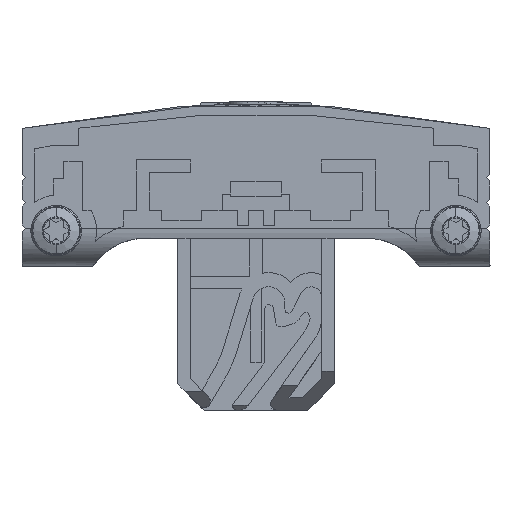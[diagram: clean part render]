
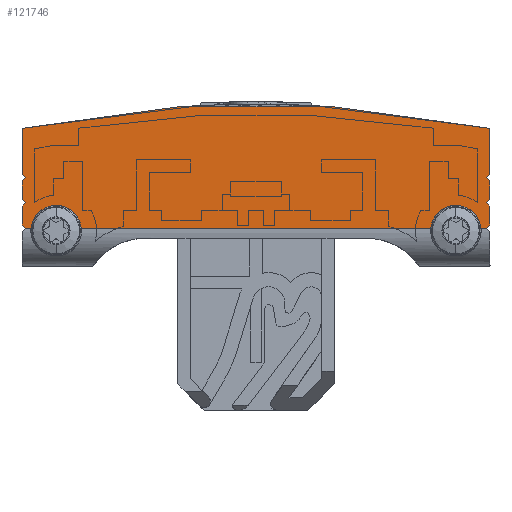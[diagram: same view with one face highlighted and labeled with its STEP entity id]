
A CAD part, front view. The second image highlights one B-rep face of the part: STEP entity #121746.
In plain terms, the highlighted planar face has unit normal (0, -1, 0) as drawn and (0, 1, 0) by its records, which use the part's own axes.
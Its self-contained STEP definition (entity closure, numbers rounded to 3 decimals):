
#96496=CARTESIAN_POINT(' ',(17.79,1.2,-1.));
#96497=VERTEX_POINT(' ',#96496);
#96511=CARTESIAN_POINT(' ',(17.79,1.2,-1.));
#96516=DIRECTION(' ',(1.,0.,0.));
#96521=VECTOR(' ',#96516,1.);
#96526=LINE('',#96511,#96521);
#96531=CARTESIAN_POINT(' ',(18.25,1.2,-1.));
#96532=VERTEX_POINT(' ',#96531);
#96536=EDGE_CURVE(' ',#96497,#96532,#96526,.T.);
#96911=CARTESIAN_POINT(' ',(-18.25,1.2,-1.));
#96912=VERTEX_POINT(' ',#96911);
#96926=CARTESIAN_POINT(' ',(-18.25,1.2,-1.));
#96931=DIRECTION(' ',(1.,0.,0.));
#96936=VECTOR(' ',#96931,1.);
#96941=LINE('',#96926,#96936);
#96946=CARTESIAN_POINT(' ',(-17.79,1.2,-1.));
#96947=VERTEX_POINT(' ',#96946);
#96951=EDGE_CURVE(' ',#96912,#96947,#96941,.T.);
#97056=CARTESIAN_POINT(' ',(-13.81,1.2,-1.));
#97057=VERTEX_POINT(' ',#97056);
#97071=CARTESIAN_POINT(' ',(-13.81,1.2,-1.));
#97076=DIRECTION(' ',(1.,0.,0.));
#97081=VECTOR(' ',#97076,1.);
#97086=LINE('',#97071,#97081);
#97091=CARTESIAN_POINT(' ',(13.81,1.2,-1.));
#97092=VERTEX_POINT(' ',#97091);
#97096=EDGE_CURVE(' ',#97057,#97092,#97086,.T.);
#120681=CARTESIAN_POINT(' ',(15.8,1.2,0.8));
#120682=VERTEX_POINT(' ',#120681);
#120696=CARTESIAN_POINT(' ',(15.8,1.2,-1.2));
#120701=DIRECTION(' ',(0.,1.,0.));
#120706=DIRECTION(' ',(0.,0.,1.));
#120711=AXIS2_PLACEMENT_3D(' ',#120696,#120701,#120706);
#120716=CIRCLE('',#120711,2.);
#120721=EDGE_CURVE(' ',#120682,#96497,#120716,.T.);
#120986=DIRECTION(' ',(0.,1.,0.));
#120991=CARTESIAN_POINT(' ',(-18.5,1.2,-1.));
#120996=DIRECTION(' ',(0.,0.,1.));
#121001=AXIS2_PLACEMENT_3D(' ',#120991,#120986,#120996);
#121006=PLANE('',#121001);
#121011=CARTESIAN_POINT(' ',(18.5,1.2,0.75));
#121016=DIRECTION(' ',(0.,0.,-1.));
#121021=VECTOR(' ',#121016,1.);
#121026=LINE('',#121011,#121021);
#121031=CARTESIAN_POINT(' ',(18.5,1.2,0.75));
#121032=VERTEX_POINT(' ',#121031);
#121036=CARTESIAN_POINT(' ',(18.5,1.2,-0.75));
#121037=VERTEX_POINT(' ',#121036);
#121041=EDGE_CURVE(' ',#121032,#121037,#121026,.T.);
#121046=ORIENTED_EDGE(' ',*,*,#121041,.T.);
#121051=CARTESIAN_POINT(' ',(18.5,1.2,-0.75));
#121056=DIRECTION(' ',(-0.707,0.,-0.707));
#121061=VECTOR(' ',#121056,1.);
#121066=LINE('',#121051,#121061);
#121071=EDGE_CURVE(' ',#121037,#96532,#121066,.T.);
#121076=ORIENTED_EDGE(' ',*,*,#121071,.T.);
#121081=ORIENTED_EDGE(' ',*,*,#96536,.F.);
#121086=ORIENTED_EDGE(' ',*,*,#120721,.F.);
#121091=CARTESIAN_POINT(' ',(15.799,1.2,-1.199));
#121096=DIRECTION(' ',(0.,1.,0.));
#121101=DIRECTION(' ',(-0.995,0.,0.099));
#121106=AXIS2_PLACEMENT_3D(' ',#121091,#121096,#121101);
#121111=CIRCLE('',#121106,1.999);
#121116=EDGE_CURVE(' ',#97092,#120682,#121111,.T.);
#121121=ORIENTED_EDGE(' ',*,*,#121116,.F.);
#121126=ORIENTED_EDGE(' ',*,*,#97096,.F.);
#121131=CARTESIAN_POINT(' ',(-15.8,1.2,-1.2));
#121136=DIRECTION(' ',(0.,1.,0.));
#121141=DIRECTION(' ',(0.,0.,1.));
#121146=AXIS2_PLACEMENT_3D(' ',#121131,#121136,#121141);
#121151=CIRCLE('',#121146,2.);
#121156=CARTESIAN_POINT(' ',(-15.8,1.2,0.8));
#121157=VERTEX_POINT(' ',#121156);
#121161=EDGE_CURVE(' ',#121157,#97057,#121151,.T.);
#121166=ORIENTED_EDGE(' ',*,*,#121161,.F.);
#121171=CARTESIAN_POINT(' ',(-15.801,1.2,-1.199));
#121176=DIRECTION(' ',(-0.,1.,0.));
#121181=DIRECTION(' ',(-0.995,0.,0.099));
#121186=AXIS2_PLACEMENT_3D(' ',#121171,#121176,#121181);
#121191=CIRCLE('',#121186,1.999);
#121196=EDGE_CURVE(' ',#96947,#121157,#121191,.T.);
#121201=ORIENTED_EDGE(' ',*,*,#121196,.F.);
#121206=ORIENTED_EDGE(' ',*,*,#96951,.F.);
#121211=CARTESIAN_POINT(' ',(-18.25,1.2,-1.));
#121216=DIRECTION(' ',(-0.707,0.,0.707));
#121221=VECTOR(' ',#121216,1.);
#121226=LINE('',#121211,#121221);
#121231=CARTESIAN_POINT(' ',(-18.5,1.2,-0.75));
#121232=VERTEX_POINT(' ',#121231);
#121236=EDGE_CURVE(' ',#96912,#121232,#121226,.T.);
#121241=ORIENTED_EDGE(' ',*,*,#121236,.T.);
#121246=CARTESIAN_POINT(' ',(-18.5,1.2,-0.75));
#121251=DIRECTION(' ',(0.,0.,1.));
#121256=VECTOR(' ',#121251,1.);
#121261=LINE('',#121246,#121256);
#121266=CARTESIAN_POINT(' ',(-18.5,1.2,0.75));
#121267=VERTEX_POINT(' ',#121266);
#121271=EDGE_CURVE(' ',#121232,#121267,#121261,.T.);
#121276=ORIENTED_EDGE(' ',*,*,#121271,.T.);
#121281=CARTESIAN_POINT(' ',(-18.5,1.2,0.75));
#121286=DIRECTION(' ',(0.707,0.,0.707));
#121291=VECTOR(' ',#121286,1.);
#121296=LINE('',#121281,#121291);
#121301=CARTESIAN_POINT(' ',(-18.25,1.2,1.));
#121302=VERTEX_POINT(' ',#121301);
#121306=EDGE_CURVE(' ',#121267,#121302,#121296,.T.);
#121311=ORIENTED_EDGE(' ',*,*,#121306,.T.);
#121316=CARTESIAN_POINT(' ',(-18.25,1.2,1.));
#121321=DIRECTION(' ',(-0.707,0.,0.707));
#121326=VECTOR(' ',#121321,1.);
#121331=LINE('',#121316,#121326);
#121336=CARTESIAN_POINT(' ',(-18.5,1.2,1.25));
#121337=VERTEX_POINT(' ',#121336);
#121341=EDGE_CURVE(' ',#121302,#121337,#121331,.T.);
#121346=ORIENTED_EDGE(' ',*,*,#121341,.T.);
#121351=CARTESIAN_POINT(' ',(-18.5,1.2,1.25));
#121356=DIRECTION(' ',(0.,0.,1.));
#121361=VECTOR(' ',#121356,1.);
#121366=LINE('',#121351,#121361);
#121371=CARTESIAN_POINT(' ',(-18.5,1.2,2.75));
#121372=VERTEX_POINT(' ',#121371);
#121376=EDGE_CURVE(' ',#121337,#121372,#121366,.T.);
#121381=ORIENTED_EDGE(' ',*,*,#121376,.T.);
#121386=CARTESIAN_POINT(' ',(-18.5,1.2,2.75));
#121391=DIRECTION(' ',(0.707,0.,0.707));
#121396=VECTOR(' ',#121391,1.);
#121401=LINE('',#121386,#121396);
#121406=CARTESIAN_POINT(' ',(-18.25,1.2,3.));
#121407=VERTEX_POINT(' ',#121406);
#121411=EDGE_CURVE(' ',#121372,#121407,#121401,.T.);
#121416=ORIENTED_EDGE(' ',*,*,#121411,.T.);
#121421=CARTESIAN_POINT(' ',(-18.25,1.2,3.));
#121426=DIRECTION(' ',(-0.707,0.,0.707));
#121431=VECTOR(' ',#121426,1.);
#121436=LINE('',#121421,#121431);
#121441=CARTESIAN_POINT(' ',(-18.5,1.2,3.25));
#121442=VERTEX_POINT(' ',#121441);
#121446=EDGE_CURVE(' ',#121407,#121442,#121436,.T.);
#121451=ORIENTED_EDGE(' ',*,*,#121446,.T.);
#121456=CARTESIAN_POINT(' ',(-18.5,1.2,3.25));
#121461=DIRECTION(' ',(0.,0.,1.));
#121466=VECTOR(' ',#121461,1.);
#121471=LINE('',#121456,#121466);
#121476=CARTESIAN_POINT(' ',(-18.5,1.2,6.895));
#121477=VERTEX_POINT(' ',#121476);
#121481=EDGE_CURVE(' ',#121442,#121477,#121471,.T.);
#121486=ORIENTED_EDGE(' ',*,*,#121481,.T.);
#121491=CARTESIAN_POINT(' ',(0.,1.2,-82.));
#121496=DIRECTION(' ',(0.,-1.,0.));
#121501=DIRECTION(' ',(0.204,0.,0.979));
#121506=AXIS2_PLACEMENT_3D(' ',#121491,#121496,#121501);
#121511=CIRCLE('',#121506,90.8);
#121516=CARTESIAN_POINT(' ',(18.5,1.2,6.895));
#121517=VERTEX_POINT(' ',#121516);
#121521=EDGE_CURVE(' ',#121517,#121477,#121511,.T.);
#121526=ORIENTED_EDGE(' ',*,*,#121521,.F.);
#121531=CARTESIAN_POINT(' ',(18.5,1.2,6.895));
#121536=DIRECTION(' ',(0.,0.,-1.));
#121541=VECTOR(' ',#121536,1.);
#121546=LINE('',#121531,#121541);
#121551=CARTESIAN_POINT(' ',(18.5,1.2,3.25));
#121552=VERTEX_POINT(' ',#121551);
#121556=EDGE_CURVE(' ',#121517,#121552,#121546,.T.);
#121561=ORIENTED_EDGE(' ',*,*,#121556,.T.);
#121566=CARTESIAN_POINT(' ',(18.5,1.2,3.25));
#121571=DIRECTION(' ',(-0.707,0.,-0.707));
#121576=VECTOR(' ',#121571,1.);
#121581=LINE('',#121566,#121576);
#121586=CARTESIAN_POINT(' ',(18.25,1.2,3.));
#121587=VERTEX_POINT(' ',#121586);
#121591=EDGE_CURVE(' ',#121552,#121587,#121581,.T.);
#121596=ORIENTED_EDGE(' ',*,*,#121591,.T.);
#121601=CARTESIAN_POINT(' ',(18.25,1.2,3.));
#121606=DIRECTION(' ',(0.707,0.,-0.707));
#121611=VECTOR(' ',#121606,1.);
#121616=LINE('',#121601,#121611);
#121621=CARTESIAN_POINT(' ',(18.5,1.2,2.75));
#121622=VERTEX_POINT(' ',#121621);
#121626=EDGE_CURVE(' ',#121587,#121622,#121616,.T.);
#121631=ORIENTED_EDGE(' ',*,*,#121626,.T.);
#121636=CARTESIAN_POINT(' ',(18.5,1.2,2.75));
#121641=DIRECTION(' ',(0.,0.,-1.));
#121646=VECTOR(' ',#121641,1.);
#121651=LINE('',#121636,#121646);
#121656=CARTESIAN_POINT(' ',(18.5,1.2,1.25));
#121657=VERTEX_POINT(' ',#121656);
#121661=EDGE_CURVE(' ',#121622,#121657,#121651,.T.);
#121666=ORIENTED_EDGE(' ',*,*,#121661,.T.);
#121671=CARTESIAN_POINT(' ',(18.5,1.2,1.25));
#121676=DIRECTION(' ',(-0.707,0.,-0.707));
#121681=VECTOR(' ',#121676,1.);
#121686=LINE('',#121671,#121681);
#121691=CARTESIAN_POINT(' ',(18.25,1.2,1.));
#121692=VERTEX_POINT(' ',#121691);
#121696=EDGE_CURVE(' ',#121657,#121692,#121686,.T.);
#121701=ORIENTED_EDGE(' ',*,*,#121696,.T.);
#121706=CARTESIAN_POINT(' ',(18.25,1.2,1.));
#121711=DIRECTION(' ',(0.707,0.,-0.707));
#121716=VECTOR(' ',#121711,1.);
#121721=LINE('',#121706,#121716);
#121726=EDGE_CURVE(' ',#121692,#121032,#121721,.T.);
#121731=ORIENTED_EDGE(' ',*,*,#121726,.T.);
#121736=EDGE_LOOP(' ',(#121046,#121076,#121081,#121086,#121121,#121126,#121166,#121201,#121206,#121241,#121276,#121311,#121346,#121381,#121416,#121451,#121486,#121526,#121561,#121596,#121631,#121666,#121701,#121731));
#121741=FACE_OUTER_BOUND(' ',#121736,.T.);
#121746=ADVANCED_FACE('',(#121741),#121006,.T.);
